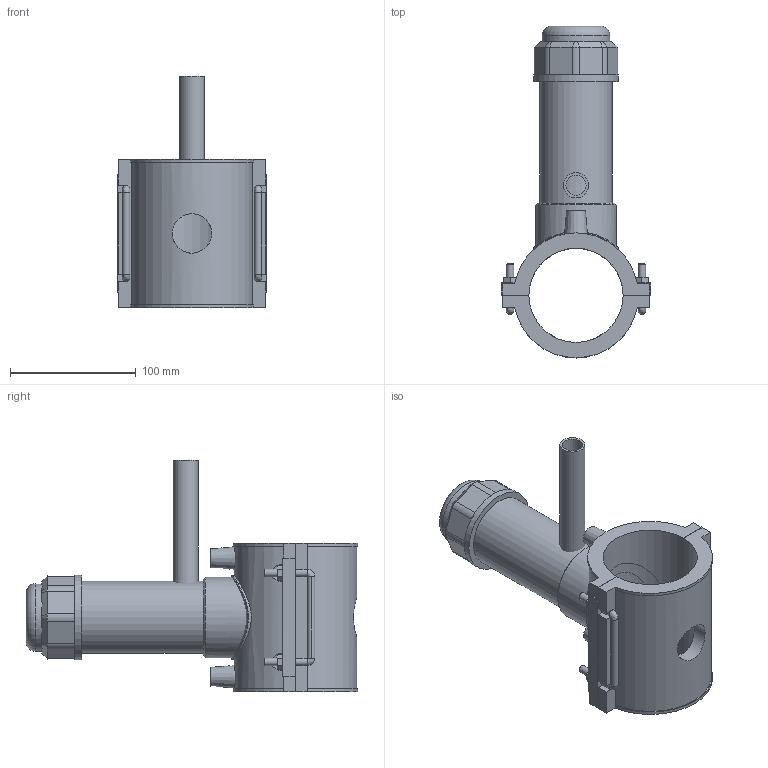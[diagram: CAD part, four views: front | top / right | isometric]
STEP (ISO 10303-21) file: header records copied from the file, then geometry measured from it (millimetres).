
FILE_DESCRIPTION(/* description */ (''),/* implementation_level */ '2;1');
FILE_NAME(/* name */ 'C:\Dropbox\KIMPROJECTS-Inventor 2019\99-16-3568-Processing\ElectroFusion Fittings\4963P4\stp\4963P4075020.stp',/* time_stamp */ '2022-03-17T11:26:03+02:00',/* author */ ('KIM'),/* organization */ (''),/* preprocessor_version */ 'ST-DEVELOPER v17.2',/* originating_system */ 'Autodesk Inventor 2019',/* authorisation */ '');
FILE_SCHEMA (('AUTOMOTIVE_DESIGN { 1 0 10303 214 3 1 1 }'));
Length unit declared in the file: millimetre
Products named in the file (1): 4963P4075020
Bounding box: 119 x 264.23 x 184 mm (x, y, z)
Volume: 704970.7 mm3; surface area: 171635.2 mm2
Topology: 3 solids, 3 shells, 188 faces, 493 edges, 316 vertices
Faces by surface type: plane 115, cylinder 48, cone 15, bspline 9, torus 1
Full cylindrical faces by diameter (mm): 4 x2, 6 x8, 10 x2, 16 x1, 20 x1, 31.36 x1, 47.25 x1, 54 x1, 57.375 x1, 64.125 x1, 67.5 x2
Entity records: 6655 total; most frequent: CARTESIAN_POINT 1953, ORIENTED_EDGE 970, DIRECTION 961, EDGE_CURVE 485, AXIS2_PLACEMENT_3D 329, VERTEX_POINT 316, LINE 303, VECTOR 303
